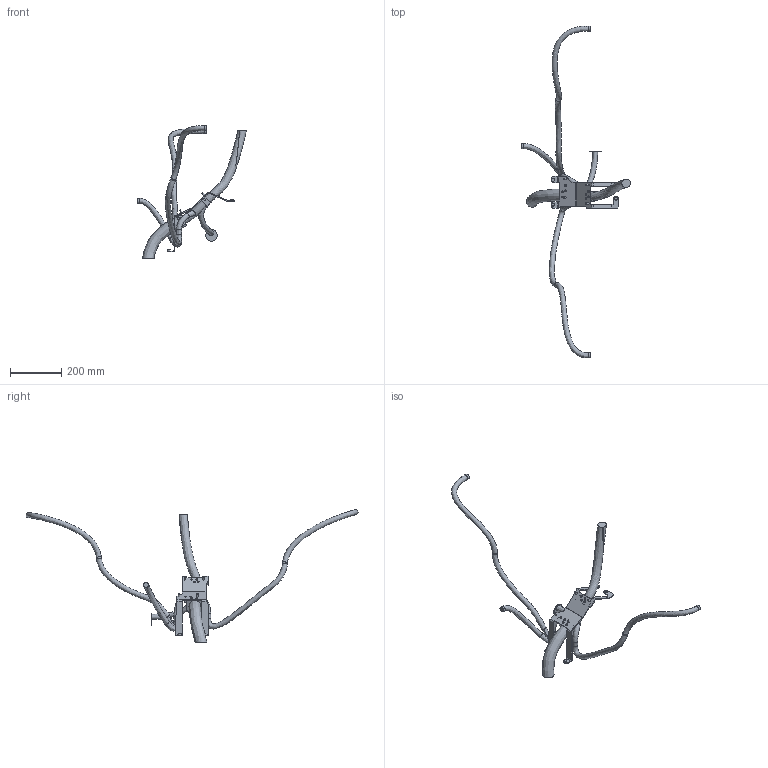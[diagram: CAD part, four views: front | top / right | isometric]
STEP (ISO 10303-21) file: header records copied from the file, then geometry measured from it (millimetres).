
FILE_DESCRIPTION (( 'STEP AP214' ), '1' );
FILE_NAME ('IRB77X0_All_OC_00_LINK01m_CABLE.step', '2026-01-27T14:53:43', ( '' ), ( '' ), 'SwSTEP 2.0', 'SolidWorks 2024', '' );
FILE_SCHEMA (( 'AUTOMOTIVE_DESIGN' ));
Length unit declared in the file: millimetre
Products named in the file (1): IRB77X0_All_OC_00_LINK01m_CABLE
Bounding box: 423.68 x 1291.07 x 516.65 mm (x, y, z)
Volume: 1594264.1 mm3; surface area: 301240.4 mm2
Topology: 1 solids, 1 shells, 231 faces, 551 edges, 337 vertices
Faces by surface type: plane 139, cylinder 67, bspline 25
Full cylindrical faces by diameter (mm): 6 x8, 7.5 x8, 12 x4, 20 x3, 45 x1
Entity records: 15166 total; most frequent: CARTESIAN_POINT 7650, DIRECTION 1004, ORIENTED_EDGE 972, EDGE_CURVE 486, AXIS2_PLACEMENT_3D 354, VERTEX_POINT 317, EDGE_LOOP 301, VECTOR 296
